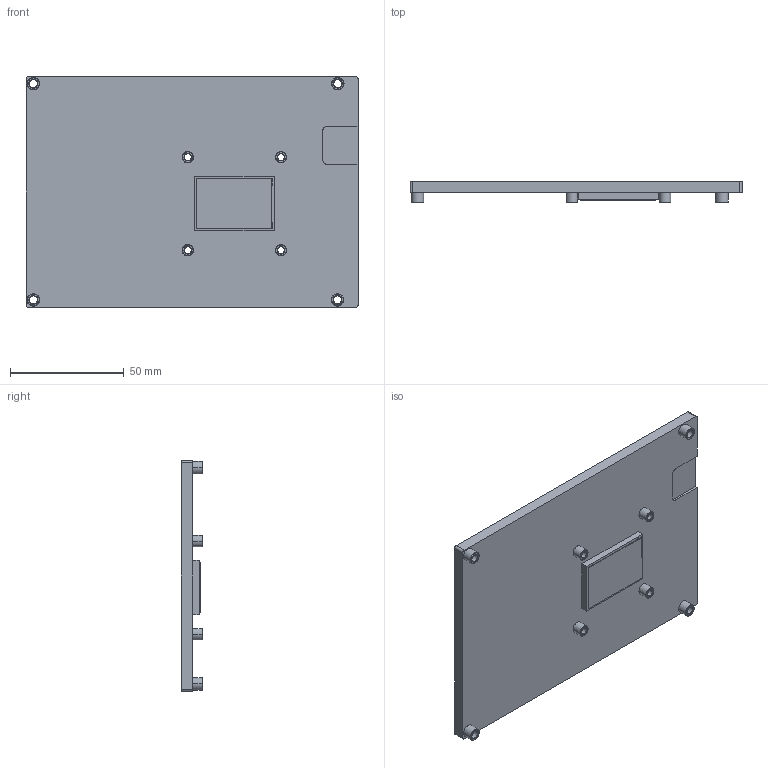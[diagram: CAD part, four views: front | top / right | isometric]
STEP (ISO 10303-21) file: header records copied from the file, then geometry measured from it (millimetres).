
FILE_DESCRIPTION((''),'2;1');
FILE_NAME('ECM-ASL_HEATSPREADER_ASM','2024-07-17T14:37:29',('jamie_liao'),(''),'CREO PARAMETRIC BY PTC INC, 2023294','CREO PARAMETRIC BY PTC INC, 2023294','');
FILE_SCHEMA(('CONFIG_CONTROL_DESIGN','GEOMETRIC_VALIDATION_PROPERTIES_MIM'));
Length unit declared in the file: millimetre
Products named in the file (3): 146X101_9_33; PSX_THERMAL_PAD_22X33X04T_8; ECM-ASL_HEATSPREADER_ASM
Assembly tree (2 placements, depth 2):
  ECM-ASL_HEATSPREADER_ASM
    146X101_9_33
    PSX_THERMAL_PAD_22X33X04T_8
Bounding box: 146.05 x 9.5 x 101.6 mm (x, y, z)
Volume: 76780.2 mm3; surface area: 35277 mm2
Topology: 2 solids, 2 shells, 155 faces, 450 edges, 316 vertices
Faces by surface type: plane 61, cone 48, cylinder 46
Entity records: 5533 total; most frequent: DIRECTION 1006, CARTESIAN_POINT 933, ORIENTED_EDGE 900, EDGE_CURVE 450, AXIS2_PLACEMENT_3D 396, VERTEX_POINT 316, CIRCLE 236, VECTOR 214
